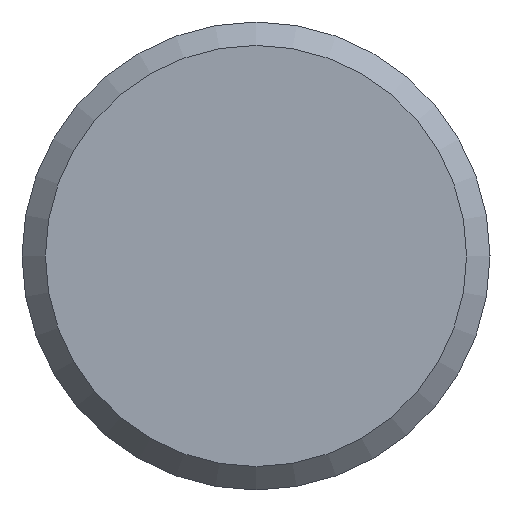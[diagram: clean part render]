
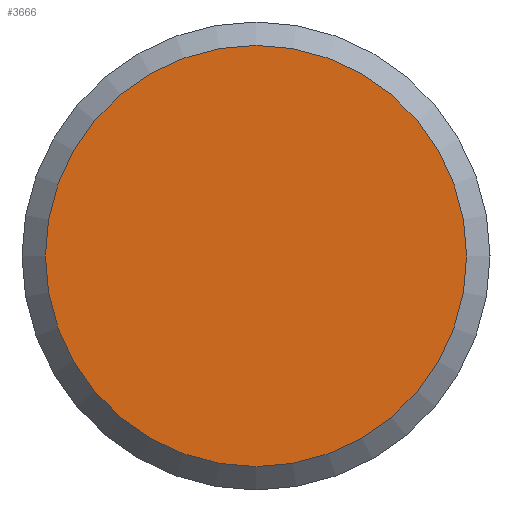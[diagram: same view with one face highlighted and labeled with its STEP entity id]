
A CAD part, left-side view. The second image highlights one B-rep face of the part: STEP entity #3666.
In plain terms, the highlighted planar face has unit normal (-1, 0, 0).
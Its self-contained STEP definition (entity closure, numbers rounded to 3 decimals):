
#1320=PLANE('',#3375);
#1372=ORIENTED_EDGE('',*,*,#1864,.F.);
#1616=CIRCLE('',#3374,4.5);
#1740=VERTEX_POINT('',#2999);
#1864=EDGE_CURVE('',#1740,#1740,#1616,.T.);
#1992=EDGE_LOOP('',(#1372));
#2240=FACE_BOUND('',#1992,.T.);
#2495=DIRECTION('',(1.,0.,0.));
#2496=DIRECTION('',(0.,-4.5,0.));
#2497=DIRECTION('',(-1.,0.,0.));
#2498=DIRECTION('',(0.,1.,0.));
#2999=CARTESIAN_POINT('',(0.,-4.5,0.));
#3000=CARTESIAN_POINT('',(0.,0.,0.));
#3001=CARTESIAN_POINT('',(0.,0.,0.));
#3374=AXIS2_PLACEMENT_3D('',#3000,#2495,#2496);
#3375=AXIS2_PLACEMENT_3D('',#3001,#2497,#2498);
#3666=ADVANCED_FACE('',(#2240),#1320,.T.);
